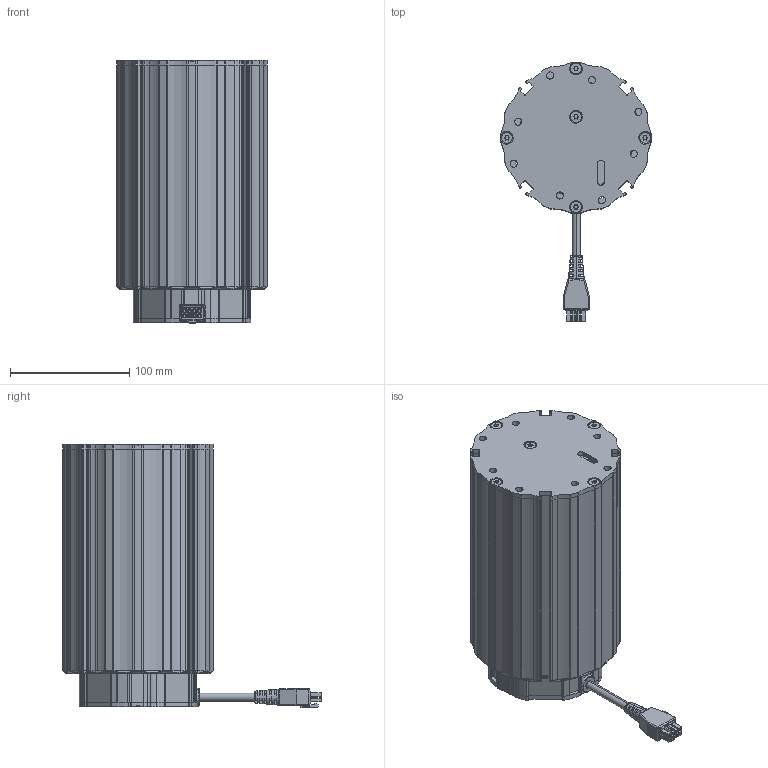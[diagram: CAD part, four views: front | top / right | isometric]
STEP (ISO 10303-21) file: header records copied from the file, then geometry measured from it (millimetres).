
FILE_DESCRIPTION (( 'STEP AP214' ), '1' );
FILE_NAME ('TR126K200220AAR24.STEP', '2026-05-26T12:53:28', ( '' ), ( '' ), 'SwSTEP 2.0', 'SolidWorks 2024', '' );
FILE_SCHEMA (( 'AUTOMOTIVE_DESIGN' ));
Length unit declared in the file: millimetre
Products named in the file (19): DIN EN ISO 7046-1 - M4 x 30 - Z - 30N - St verz._DIN EN ISO 7046-1 - M4 x 30 - Z - 30N - St verz.; EZ02631; 34.1.002_ohne Konus; 34.0.009_STL-Teil; EZ02360_Einbau-Version-Zeichnung SE120; vergossene Zugentlastung für Molex-Stecker 39-01-2080; 34.1.014_Länge: 197mm; Senkschraube mit Torx für Thermoplast 5x14 A2 BN2043-3757390; TR126K200220AAR24; Kabel^EZ02360_Länge: Einbau-Version kurz (100mm); 34.1.013_Länge: 178,5mm; 34.0.008_STL-Teil; 34.1.015_EB 220mini; 34.1.007_Lange: 185,5mm; DIN EN ISO 7046-1 - M5 x 30 - Z - 30N - St verz._DIN EN ISO 7046-1 - M5 x 30 - Z - 30N - St verz.; DIN EN ISO 7046-1 - M5 x 12 - Z - 12N - St verz._DIN EN ISO 7046-1 - M5 x 12 - Z - 12N - St verz.; 34.0.011; 34.0.010; MOLEX - 39-01-2080 - Buchsengehäuse 8-pol.
Assembly tree (30 placements, depth 3):
  TR126K200220AAR24
    34.1.015_EB 220mini
      34.1.007_Lange: 185,5mm
      34.1.013_Länge: 178,5mm
      34.1.014_Länge: 197mm
    34.0.011
    DIN EN ISO 7046-1 - M5 x 12 - Z - 12N - St verz._DIN EN ISO 7046-1 - M5 x 12 - Z - 12N - St verz.  x3
    Senkschraube mit Torx für Thermoplast 5x14 A2 BN2043-3757390  x2
    DIN EN ISO 7046-1 - M4 x 30 - Z - 30N - St verz._DIN EN ISO 7046-1 - M4 x 30 - Z - 30N - St verz.  x4
    34.0.010
    DIN EN ISO 7046-1 - M5 x 30 - Z - 30N - St verz._DIN EN ISO 7046-1 - M5 x 30 - Z - 30N - St verz.  x7
    EZ02631
    34.1.002_ohne Konus
    34.0.008_STL-Teil
    34.0.009_STL-Teil
    EZ02360_Einbau-Version-Zeichnung SE120
      Kabel^EZ02360_Länge: Einbau-Version kurz (100mm)
      MOLEX - 39-01-2080 - Buchsengehäuse 8-pol.
      vergossene Zugentlastung für Molex-Stecker 39-01-2080
Bounding box: 126.01 x 216.52 x 220.55 mm (x, y, z)
Volume: 851279.1 mm3; surface area: 571796.1 mm2
Topology: 28 solids, 28 shells, 3409 faces, 9166 edges, 5788 vertices
Faces by surface type: cylinder 1566, plane 1015, torus 342, bspline 288, cone 109, sphere 89
Entity records: 137492 total; most frequent: CARTESIAN_POINT 26761, DIRECTION 17171, ORIENTED_EDGE 17102, EDGE_CURVE 8551, AXIS2_PLACEMENT_3D 6654, VERTEX_POINT 5424, VECTOR 3863, LINE 3863
